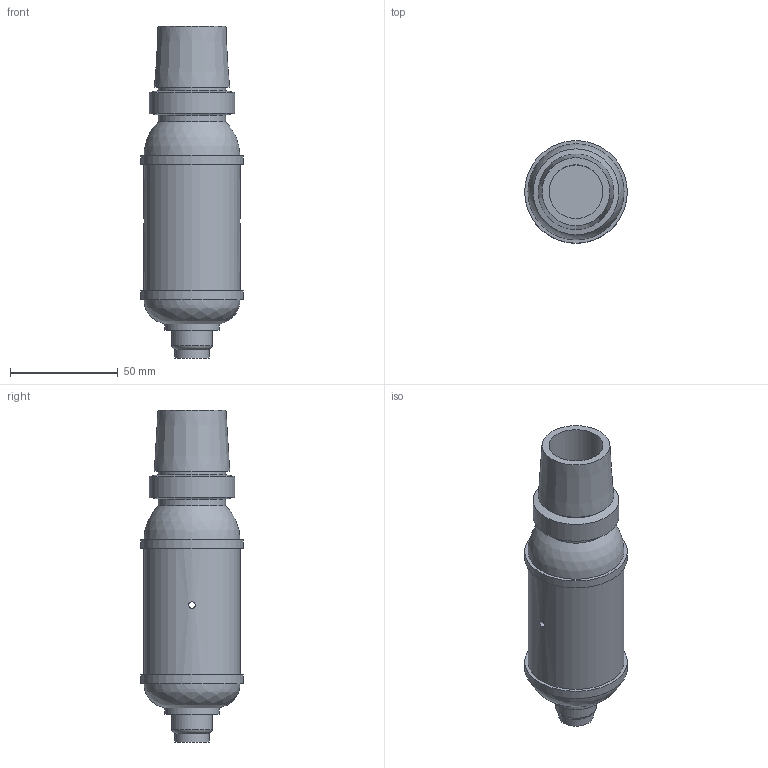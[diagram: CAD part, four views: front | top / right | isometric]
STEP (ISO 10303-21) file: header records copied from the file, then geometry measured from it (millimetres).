
FILE_DESCRIPTION(/* description */ (''),/* implementation_level */ '2;1');
FILE_NAME(/* name */ 'C:/Users/ianhu/Documents/Robots/Boosters/Ians Booster.step',/* time_stamp */ '2019-01-21T17:53:49+10:00',/* author */ (''),/* organization */ (''),/* preprocessor_version */ 'ST-DEVELOPER v17.2',/* originating_system */ 'Autodesk Translation Framework v7.6.0.251',/* authorisation */ '');
FILE_SCHEMA (('AUTOMOTIVE_DESIGN { 1 0 10303 214 3 1 1 }'));
Length unit declared in the file: millimetre
Products named in the file (2): Booster Clean; Component2
Assembly tree (1 placements, depth 2):
  Booster Clean
    Component2
Bounding box: 47.62 x 47.62 x 153.97 mm (x, y, z)
Volume: 147844.5 mm3; surface area: 29091.6 mm2
Topology: 1 solids, 1 shells, 26 faces, 71 edges, 54 vertices
Faces by surface type: cylinder 11, plane 9, cone 3, bspline 1, torus 1, sphere 1
Full cylindrical faces by diameter (mm): 3 x1, 15.875 x1, 18.92 x1, 25 x1, 25.443 x1, 31.415 x2, 39.796 x1, 44.58 x1, 47.625 x2
Entity records: 1027 total; most frequent: CARTESIAN_POINT 248, DIRECTION 176, ORIENTED_EDGE 142, AXIS2_PLACEMENT_3D 81, EDGE_CURVE 71, VERTEX_POINT 54, CIRCLE 53, EDGE_LOOP 35
